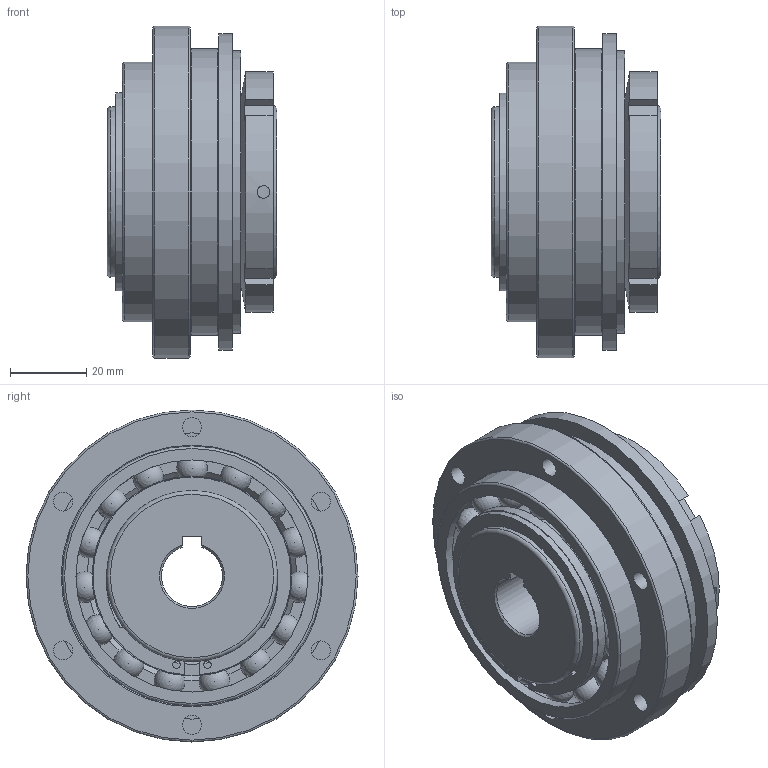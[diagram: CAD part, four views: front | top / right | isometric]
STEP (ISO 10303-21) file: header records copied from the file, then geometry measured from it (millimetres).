
FILE_DESCRIPTION( ( 'Unknown' ), '1' );
FILE_NAME( 'F:/JAKOB-STEP+IGES-Dateien/STEP-Dateien/SKW/SKW 150.stp', 'Unknown', ( 'Unknown' ), ( 'Unknown' ), 'PSStep 10.1', 'Unknown', ' ' );
FILE_SCHEMA( ( 'AUTOMOTIVE_DESIGN { 1 0 10303 214 1 1 1 1 }' ) );
Length unit declared in the file: millimetre
Products named in the file (1): 27920752
Bounding box: 44.5 x 87 x 87 mm (x, y, z)
Volume: 161785.6 mm3; surface area: 41518.5 mm2
Topology: 1 solids, 4 shells, 162 faces, 521 edges, 344 vertices
Faces by surface type: plane 59, torus 42, cylinder 39, sphere 15, cone 7
Full cylindrical faces by diameter (mm): 2 x2, 3.3 x3, 5 x6, 42.5 x1, 44.8 x1, 45 x2, 46 x1, 46.5 x1, 52.3 x2, 60.8 x2, 68 x2, 72.6 x2, 74 x1, 75 x1, 83 x1, 87 x1
Entity records: 7884 total; most frequent: CARTESIAN_POINT 2635, ORIENTED_EDGE 798, DIRECTION 772, EDGE_CURVE 399, AXIS2_PLACEMENT_3D 342, VERTEX_POINT 285, EDGE_LOOP 258, FACE_OUTER_BOUND 188
